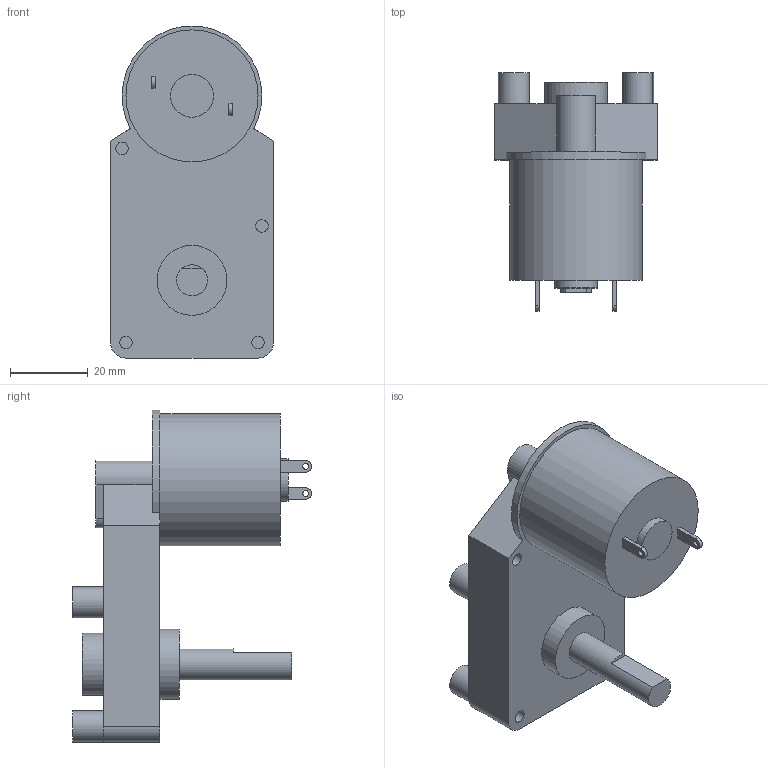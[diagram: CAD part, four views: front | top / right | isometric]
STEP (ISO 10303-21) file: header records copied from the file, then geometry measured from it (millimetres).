
FILE_DESCRIPTION((''),'2;1');
FILE_NAME('E:\2공장-도면\3D\표준형 3D(민규)\1공장 step\KME R TYPE.stp','2015-02-26T17:27:00',('AHN'),(''),'Autodesk Inventor 2012','Autodesk Inventor 2012','');
FILE_SCHEMA(('CONFIG_CONTROL_DESIGN'));
Length unit declared in the file: millimetre
Products named in the file (1): KME R타입
Bounding box: 42 x 61.5 x 85.5 mm (x, y, z)
Volume: 73215.9 mm3; surface area: 15720.5 mm2
Topology: 1 solids, 1 shells, 64 faces, 131 edges, 86 vertices
Faces by surface type: plane 38, cylinder 26
Full cylindrical faces by diameter (mm): 1.5 x2, 3.2 x4, 4.5 x4, 7.28 x1, 8 x4, 11 x1, 16 x1, 18 x1, 34 x1
Entity records: 1608 total; most frequent: DIRECTION 292, CARTESIAN_POINT 257, ORIENTED_EDGE 218, AXIS2_PLACEMENT_3D 118, EDGE_CURVE 109, EDGE_LOOP 104, VERTEX_POINT 83, FACE_OUTER_BOUND 64
